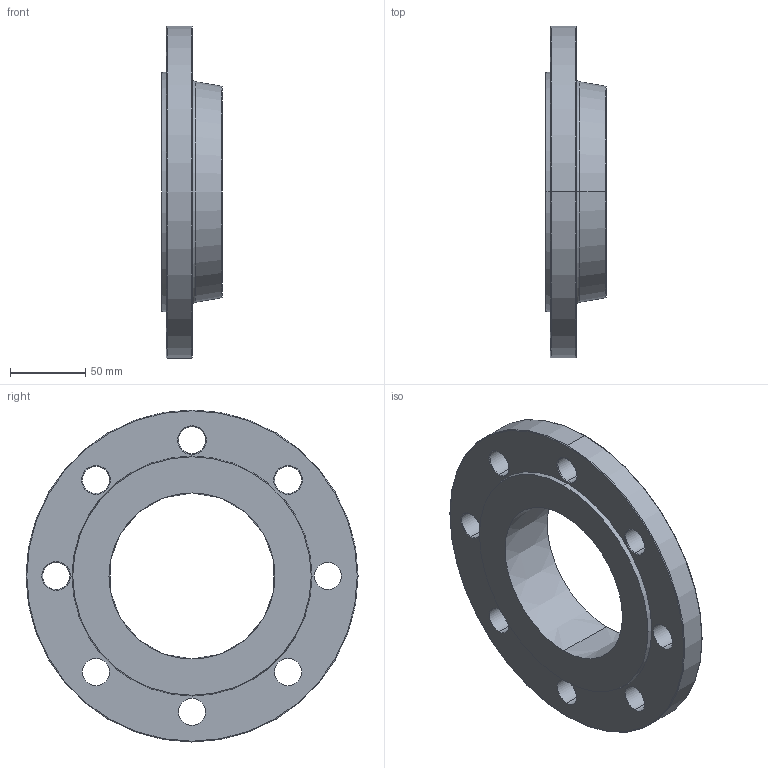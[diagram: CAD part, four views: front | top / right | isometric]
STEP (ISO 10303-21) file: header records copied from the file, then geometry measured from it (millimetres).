
FILE_DESCRIPTION (( 'STEP AP203' ), '1' );
FILE_NAME ('KP_W6-110.step', '2011-08-08T11:59:31', ( '' ), ( '' ), 'SwSTEP 2.0', 'SolidWorks 2011', '' );
FILE_SCHEMA (( 'CONFIG_CONTROL_DESIGN' ));
Length unit declared in the file: millimetre
Products named in the file (1): KP_W6-110
Bounding box: 40 x 220 x 220 mm (x, y, z)
Volume: 611356.3 mm3; surface area: 94079.8 mm2
Topology: 1 solids, 1 shells, 52 faces, 120 edges, 72 vertices
Faces by surface type: torus 24, cylinder 18, cone 6, plane 4
Entity records: 1621 total; most frequent: DIRECTION 322, CARTESIAN_POINT 245, ORIENTED_EDGE 240, AXIS2_PLACEMENT_3D 149, EDGE_CURVE 120, CIRCLE 96, VERTEX_POINT 72, EDGE_LOOP 72
